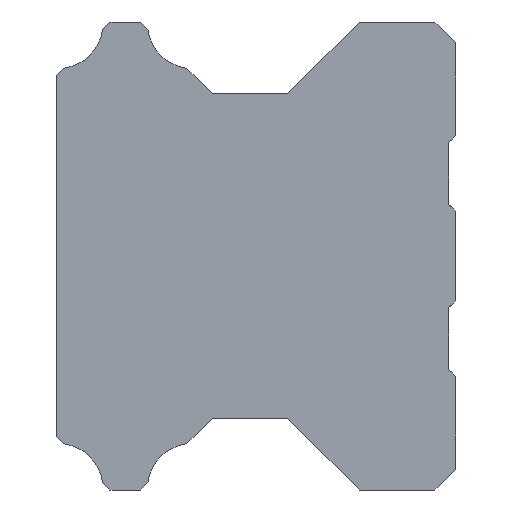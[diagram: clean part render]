
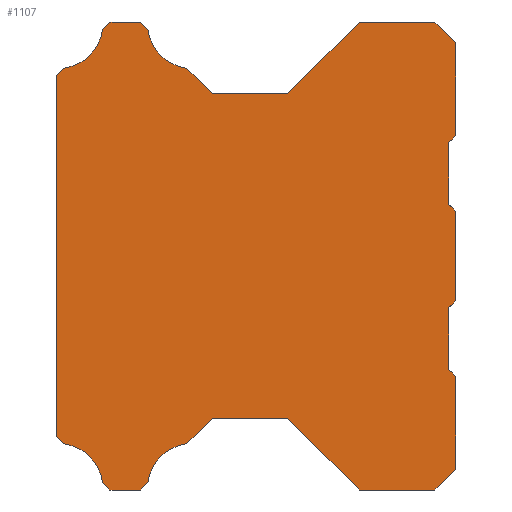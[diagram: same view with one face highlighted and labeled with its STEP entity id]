
A CAD part, left-side view. The second image highlights one B-rep face of the part: STEP entity #1107.
In plain terms, the highlighted planar face has unit normal (-1, 0, 0).
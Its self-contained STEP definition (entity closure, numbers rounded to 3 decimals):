
#48=CIRCLE('',#1194,3.3);
#50=CIRCLE('',#1200,3.3);
#56=CIRCLE('',#1210,3.3);
#58=CIRCLE('',#1216,3.3);
#87=LINE('',#1657,#191);
#89=LINE('',#1663,#193);
#91=LINE('',#1669,#195);
#93=LINE('',#1673,#197);
#97=LINE('',#1682,#201);
#100=LINE('',#1688,#204);
#103=LINE('',#1694,#207);
#107=LINE('',#1704,#211);
#109=LINE('',#1712,#213);
#112=LINE('',#1720,#216);
#115=LINE('',#1726,#219);
#118=LINE('',#1732,#222);
#121=LINE('',#1738,#225);
#124=LINE('',#1744,#228);
#127=LINE('',#1750,#231);
#130=LINE('',#1756,#234);
#134=LINE('',#1768,#238);
#137=LINE('',#1774,#241);
#140=LINE('',#1780,#244);
#144=LINE('',#1792,#248);
#147=LINE('',#1806,#251);
#150=LINE('',#1812,#254);
#154=LINE('',#1824,#258);
#157=LINE('',#1830,#261);
#160=LINE('',#1836,#264);
#164=LINE('',#1848,#268);
#167=LINE('',#1854,#271);
#170=LINE('',#1860,#274);
#191=VECTOR('',#1330,1000.);
#193=VECTOR('',#1336,1000.);
#195=VECTOR('',#1342,1000.);
#197=VECTOR('',#1346,1000.);
#201=VECTOR('',#1352,1000.);
#204=VECTOR('',#1357,1000.);
#207=VECTOR('',#1362,1000.);
#211=VECTOR('',#1374,1000.);
#213=VECTOR('',#1388,1000.);
#216=VECTOR('',#1397,1000.);
#219=VECTOR('',#1402,1000.);
#222=VECTOR('',#1407,1000.);
#225=VECTOR('',#1412,1000.);
#228=VECTOR('',#1417,1000.);
#231=VECTOR('',#1422,1000.);
#234=VECTOR('',#1427,1000.);
#238=VECTOR('',#1439,1000.);
#241=VECTOR('',#1444,1000.);
#244=VECTOR('',#1449,1000.);
#248=VECTOR('',#1461,1000.);
#251=VECTOR('',#1474,1000.);
#254=VECTOR('',#1479,1000.);
#258=VECTOR('',#1491,1000.);
#261=VECTOR('',#1496,1000.);
#264=VECTOR('',#1501,1000.);
#268=VECTOR('',#1513,1000.);
#271=VECTOR('',#1518,1000.);
#274=VECTOR('',#1523,1000.);
#504=ORIENTED_EDGE('',*,*,#636,.F.);
#505=ORIENTED_EDGE('',*,*,#734,.F.);
#506=ORIENTED_EDGE('',*,*,#731,.F.);
#507=ORIENTED_EDGE('',*,*,#728,.F.);
#508=ORIENTED_EDGE('',*,*,#725,.T.);
#509=ORIENTED_EDGE('',*,*,#722,.F.);
#510=ORIENTED_EDGE('',*,*,#719,.F.);
#511=ORIENTED_EDGE('',*,*,#716,.F.);
#512=ORIENTED_EDGE('',*,*,#713,.T.);
#513=ORIENTED_EDGE('',*,*,#710,.F.);
#514=ORIENTED_EDGE('',*,*,#707,.F.);
#515=ORIENTED_EDGE('',*,*,#700,.F.);
#516=ORIENTED_EDGE('',*,*,#697,.T.);
#517=ORIENTED_EDGE('',*,*,#694,.F.);
#518=ORIENTED_EDGE('',*,*,#691,.F.);
#519=ORIENTED_EDGE('',*,*,#688,.F.);
#520=ORIENTED_EDGE('',*,*,#685,.T.);
#521=ORIENTED_EDGE('',*,*,#682,.F.);
#522=ORIENTED_EDGE('',*,*,#679,.F.);
#523=ORIENTED_EDGE('',*,*,#676,.F.);
#524=ORIENTED_EDGE('',*,*,#673,.F.);
#525=ORIENTED_EDGE('',*,*,#670,.F.);
#526=ORIENTED_EDGE('',*,*,#667,.F.);
#527=ORIENTED_EDGE('',*,*,#664,.F.);
#528=ORIENTED_EDGE('',*,*,#659,.F.);
#529=ORIENTED_EDGE('',*,*,#634,.F.);
#530=ORIENTED_EDGE('',*,*,#631,.F.);
#531=ORIENTED_EDGE('',*,*,#628,.F.);
#532=ORIENTED_EDGE('',*,*,#653,.F.);
#533=ORIENTED_EDGE('',*,*,#646,.F.);
#534=ORIENTED_EDGE('',*,*,#643,.F.);
#535=ORIENTED_EDGE('',*,*,#640,.F.);
#628=EDGE_CURVE('',#778,#779,#87,.T.);
#631=EDGE_CURVE('',#779,#781,#89,.T.);
#634=EDGE_CURVE('',#781,#783,#91,.T.);
#636=EDGE_CURVE('',#784,#785,#93,.T.);
#640=EDGE_CURVE('',#785,#788,#97,.T.);
#643=EDGE_CURVE('',#788,#790,#100,.T.);
#646=EDGE_CURVE('',#790,#792,#103,.T.);
#653=EDGE_CURVE('',#792,#778,#107,.T.);
#659=EDGE_CURVE('',#783,#794,#109,.T.);
#664=EDGE_CURVE('',#794,#796,#112,.T.);
#667=EDGE_CURVE('',#796,#798,#115,.T.);
#670=EDGE_CURVE('',#798,#800,#118,.T.);
#673=EDGE_CURVE('',#800,#802,#121,.T.);
#676=EDGE_CURVE('',#802,#804,#124,.T.);
#679=EDGE_CURVE('',#804,#806,#127,.T.);
#682=EDGE_CURVE('',#806,#808,#130,.T.);
#685=EDGE_CURVE('',#810,#808,#48,.T.);
#688=EDGE_CURVE('',#810,#812,#134,.T.);
#691=EDGE_CURVE('',#812,#814,#137,.T.);
#694=EDGE_CURVE('',#814,#816,#140,.T.);
#697=EDGE_CURVE('',#818,#816,#50,.T.);
#700=EDGE_CURVE('',#818,#820,#144,.T.);
#707=EDGE_CURVE('',#820,#826,#147,.T.);
#710=EDGE_CURVE('',#826,#828,#150,.T.);
#713=EDGE_CURVE('',#830,#828,#56,.T.);
#716=EDGE_CURVE('',#830,#832,#154,.T.);
#719=EDGE_CURVE('',#832,#834,#157,.T.);
#722=EDGE_CURVE('',#834,#836,#160,.T.);
#725=EDGE_CURVE('',#838,#836,#58,.T.);
#728=EDGE_CURVE('',#838,#840,#164,.T.);
#731=EDGE_CURVE('',#840,#842,#167,.T.);
#734=EDGE_CURVE('',#842,#784,#170,.T.);
#778=VERTEX_POINT('',#1656);
#779=VERTEX_POINT('',#1658);
#781=VERTEX_POINT('',#1664);
#783=VERTEX_POINT('',#1670);
#784=VERTEX_POINT('',#1674);
#785=VERTEX_POINT('',#1675);
#788=VERTEX_POINT('',#1683);
#790=VERTEX_POINT('',#1689);
#792=VERTEX_POINT('',#1695);
#794=VERTEX_POINT('',#1713);
#796=VERTEX_POINT('',#1721);
#798=VERTEX_POINT('',#1727);
#800=VERTEX_POINT('',#1733);
#802=VERTEX_POINT('',#1739);
#804=VERTEX_POINT('',#1745);
#806=VERTEX_POINT('',#1751);
#808=VERTEX_POINT('',#1757);
#810=VERTEX_POINT('',#1763);
#812=VERTEX_POINT('',#1769);
#814=VERTEX_POINT('',#1775);
#816=VERTEX_POINT('',#1781);
#818=VERTEX_POINT('',#1787);
#820=VERTEX_POINT('',#1793);
#826=VERTEX_POINT('',#1807);
#828=VERTEX_POINT('',#1813);
#830=VERTEX_POINT('',#1819);
#832=VERTEX_POINT('',#1825);
#834=VERTEX_POINT('',#1831);
#836=VERTEX_POINT('',#1837);
#838=VERTEX_POINT('',#1843);
#840=VERTEX_POINT('',#1849);
#842=VERTEX_POINT('',#1855);
#917=EDGE_LOOP('',(#504,#505,#506,#507,#508,#509,#510,#511,#512,#513,#514,
#515,#516,#517,#518,#519,#520,#521,#522,#523,#524,#525,#526,#527,#528,#529,
#530,#531,#532,#533,#534,#535));
#991=FACE_BOUND('',#917,.T.);
#1057=PLANE('',#1222);
#1107=ADVANCED_FACE('',(#991),#1057,.F.);
#1194=AXIS2_PLACEMENT_3D('',#1762,#1432,#1433);
#1200=AXIS2_PLACEMENT_3D('',#1786,#1454,#1455);
#1210=AXIS2_PLACEMENT_3D('',#1818,#1484,#1485);
#1216=AXIS2_PLACEMENT_3D('',#1842,#1506,#1507);
#1222=AXIS2_PLACEMENT_3D('',#1863,#1527,#1528);
#1330=DIRECTION('',(0.,-0.707,-0.707));
#1336=DIRECTION('',(0.,0.,-1.));
#1342=DIRECTION('',(0.,0.707,-0.707));
#1346=DIRECTION('',(0.,-1.,0.));
#1352=DIRECTION('',(0.,-0.707,-0.707));
#1357=DIRECTION('',(0.,0.,-1.));
#1362=DIRECTION('',(0.,0.707,-0.707));
#1374=DIRECTION('',(0.,0.,-1.));
#1388=DIRECTION('',(0.,0.,-1.));
#1397=DIRECTION('',(0.,-0.707,-0.707));
#1402=DIRECTION('',(0.,0.,-1.));
#1407=DIRECTION('',(0.,0.707,-0.707));
#1412=DIRECTION('',(0.,1.,0.));
#1417=DIRECTION('',(0.,0.707,0.707));
#1422=DIRECTION('',(0.,1.,0.));
#1427=DIRECTION('',(0.,0.707,-0.707));
#1432=DIRECTION('',(1.,0.,0.));
#1433=DIRECTION('',(0.,0.,-1.));
#1439=DIRECTION('',(0.,0.707,-0.707));
#1444=DIRECTION('',(0.,1.,0.));
#1449=DIRECTION('',(0.,0.707,0.707));
#1454=DIRECTION('',(1.,0.,0.));
#1455=DIRECTION('',(0.,0.,-1.));
#1461=DIRECTION('',(0.,0.707,0.707));
#1474=DIRECTION('',(0.,0.,1.));
#1479=DIRECTION('',(0.,-0.707,0.707));
#1484=DIRECTION('',(1.,0.,0.));
#1485=DIRECTION('',(0.,0.,-1.));
#1491=DIRECTION('',(0.,-0.707,0.707));
#1496=DIRECTION('',(0.,-1.,0.));
#1501=DIRECTION('',(0.,-0.707,-0.707));
#1506=DIRECTION('',(1.,0.,0.));
#1507=DIRECTION('',(0.,0.,-1.));
#1513=DIRECTION('',(0.,-0.707,-0.707));
#1518=DIRECTION('',(0.,-1.,0.));
#1523=DIRECTION('',(0.,-0.707,0.707));
#1527=DIRECTION('',(1.,0.,0.));
#1528=DIRECTION('',(0.,0.,-1.));
#1656=CARTESIAN_POINT('',(-20.,0.5,3.75));
#1657=CARTESIAN_POINT('',(-20.,0.5,3.75));
#1658=CARTESIAN_POINT('',(-20.,0.,3.25));
#1663=CARTESIAN_POINT('',(-20.,0.,3.25));
#1664=CARTESIAN_POINT('',(-20.,0.,-3.25));
#1669=CARTESIAN_POINT('',(-20.,0.,-3.25));
#1670=CARTESIAN_POINT('',(-20.,0.5,-3.75));
#1673=CARTESIAN_POINT('',(-20.,7.,17.));
#1674=CARTESIAN_POINT('',(-20.,7.,17.));
#1675=CARTESIAN_POINT('',(-20.,1.5,17.));
#1682=CARTESIAN_POINT('',(-20.,1.5,17.));
#1683=CARTESIAN_POINT('',(-20.,0.,15.5));
#1688=CARTESIAN_POINT('',(-20.,0.,15.5));
#1689=CARTESIAN_POINT('',(-20.,0.,8.745));
#1694=CARTESIAN_POINT('',(-20.,0.,8.745));
#1695=CARTESIAN_POINT('',(-20.,0.5,8.245));
#1704=CARTESIAN_POINT('',(-20.,0.5,8.245));
#1712=CARTESIAN_POINT('',(-20.,0.5,-3.75));
#1713=CARTESIAN_POINT('',(-20.,0.5,-8.245));
#1720=CARTESIAN_POINT('',(-20.,0.5,-8.245));
#1721=CARTESIAN_POINT('',(-20.,0.,-8.745));
#1726=CARTESIAN_POINT('',(-20.,0.,-8.745));
#1727=CARTESIAN_POINT('',(-20.,0.,-15.5));
#1732=CARTESIAN_POINT('',(-20.,0.,-15.5));
#1733=CARTESIAN_POINT('',(-20.,1.5,-17.));
#1738=CARTESIAN_POINT('',(-20.,1.5,-17.));
#1739=CARTESIAN_POINT('',(-20.,7.,-17.));
#1744=CARTESIAN_POINT('',(-20.,7.,-17.));
#1745=CARTESIAN_POINT('',(-20.,12.2,-11.8));
#1750=CARTESIAN_POINT('',(-20.,12.2,-11.8));
#1751=CARTESIAN_POINT('',(-20.,17.68,-11.8));
#1756=CARTESIAN_POINT('',(-20.,17.68,-11.8));
#1757=CARTESIAN_POINT('',(-20.,19.517,-13.638));
#1762=CARTESIAN_POINT('',(-20.,19.089,-16.91));
#1763=CARTESIAN_POINT('',(-20.,22.361,-16.482));
#1768=CARTESIAN_POINT('',(-20.,22.361,-16.482));
#1769=CARTESIAN_POINT('',(-20.,22.879,-17.));
#1774=CARTESIAN_POINT('',(-20.,22.879,-17.));
#1775=CARTESIAN_POINT('',(-20.,25.11,-17.));
#1780=CARTESIAN_POINT('',(-20.,25.11,-17.));
#1781=CARTESIAN_POINT('',(-20.,25.642,-16.469));
#1786=CARTESIAN_POINT('',(-20.,28.912,-16.91));
#1787=CARTESIAN_POINT('',(-20.,28.47,-13.64));
#1792=CARTESIAN_POINT('',(-20.,28.47,-13.64));
#1793=CARTESIAN_POINT('',(-20.,29.,-13.11));
#1806=CARTESIAN_POINT('',(-20.,29.,-13.11));
#1807=CARTESIAN_POINT('',(-20.,29.,13.11));
#1812=CARTESIAN_POINT('',(-20.,29.,13.11));
#1813=CARTESIAN_POINT('',(-20.,28.47,13.64));
#1818=CARTESIAN_POINT('',(-20.,28.912,16.91));
#1819=CARTESIAN_POINT('',(-20.,25.642,16.469));
#1824=CARTESIAN_POINT('',(-20.,25.642,16.469));
#1825=CARTESIAN_POINT('',(-20.,25.11,17.));
#1830=CARTESIAN_POINT('',(-20.,25.11,17.));
#1831=CARTESIAN_POINT('',(-20.,22.879,17.));
#1836=CARTESIAN_POINT('',(-20.,22.879,17.));
#1837=CARTESIAN_POINT('',(-20.,22.361,16.482));
#1842=CARTESIAN_POINT('',(-20.,19.089,16.91));
#1843=CARTESIAN_POINT('',(-20.,19.517,13.638));
#1848=CARTESIAN_POINT('',(-20.,19.517,13.638));
#1849=CARTESIAN_POINT('',(-20.,17.68,11.8));
#1854=CARTESIAN_POINT('',(-20.,17.68,11.8));
#1855=CARTESIAN_POINT('',(-20.,12.2,11.8));
#1860=CARTESIAN_POINT('',(-20.,12.2,11.8));
#1863=CARTESIAN_POINT('',(-20.,19.089,-16.91));
